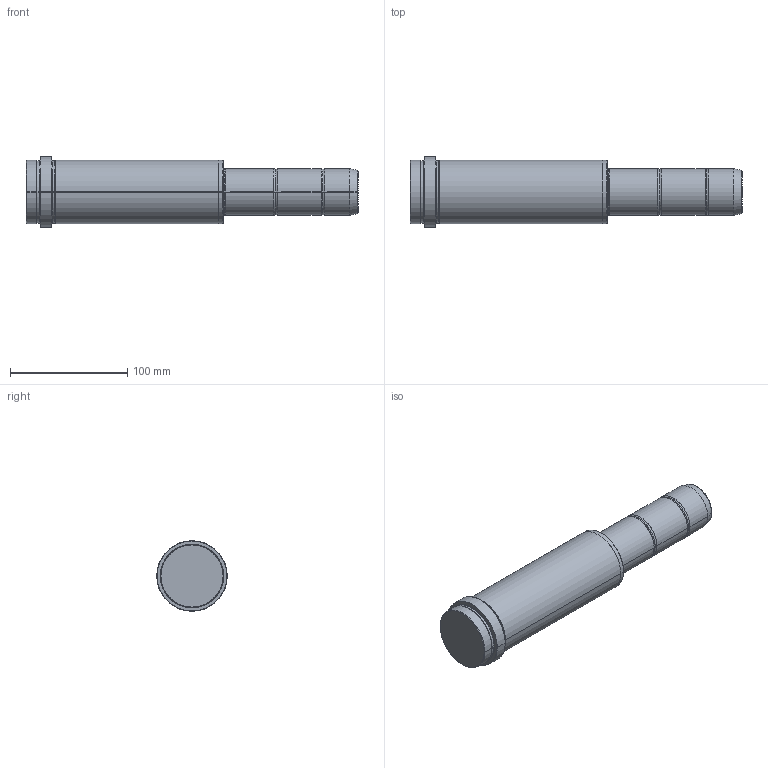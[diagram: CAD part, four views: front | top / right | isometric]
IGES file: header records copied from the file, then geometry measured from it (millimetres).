
Start section: SolidWorks IGES file using analytic representation for surfaces
Global section: file name: C:\Users\Ryan\Documents\PCS\Metric DIN Guide Pins - With Collar\GDP-EC-40\GDP-EC-40-156-115.igs; native system: SolidWorks 2009; preprocessor: SolidWorks 2009; author: Ryan; date: 151205.135249; units: millimetre
Bounding box: 283 x 60 x 60 mm (x, y, z)
Surface area: 48534.9 mm2 (no closed solid volume)
Topology: 0 solids, 0 shells, 58 faces, 1096 edges, 1096 vertices
Faces by surface type: bspline 30, revolution 28
